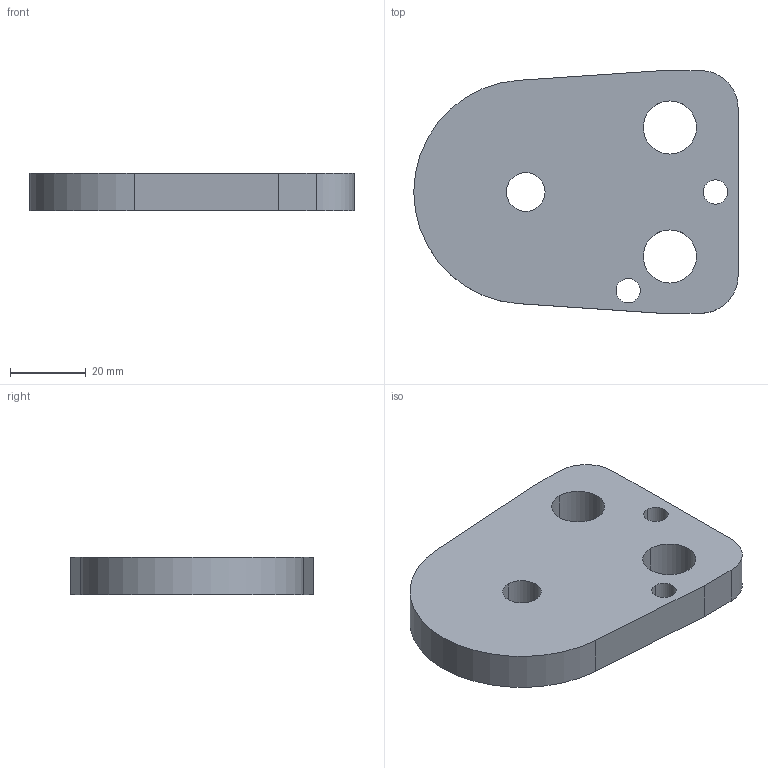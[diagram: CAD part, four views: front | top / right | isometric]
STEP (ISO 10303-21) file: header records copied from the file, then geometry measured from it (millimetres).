
FILE_DESCRIPTION(/* description */ (''),/* implementation_level */ '2;1');
FILE_NAME(/* name */ '3d_bpc45-10_03412_r00.stp',/* time_stamp */ '2011-01-10T14:17:09+09:00',/* author */ ('MISUMI'),/* organization */ (''),/* preprocessor_version */ 'ST-DEVELOPER v11',/* originating_system */ 'UGS - NX 5.0',/* authorisation */ '');
FILE_SCHEMA (('CONFIG_CONTROL_DESIGN'));
Length unit declared in the file: millimetre
Products named in the file (1): 3d_bpc45-10_03412_r00
Bounding box: 85.5 x 64 x 10 mm (x, y, z)
Volume: 43666.5 mm3; surface area: 12938.1 mm2
Topology: 1 solids, 1 shells, 20 faces, 54 edges, 36 vertices
Faces by surface type: cylinder 13, plane 7
Entity records: 750 total; most frequent: DIRECTION 122, CARTESIAN_POINT 111, ORIENTED_EDGE 108, EDGE_CURVE 54, AXIS2_PLACEMENT_3D 47, VERTEX_POINT 36, EDGE_LOOP 30, LINE 28
